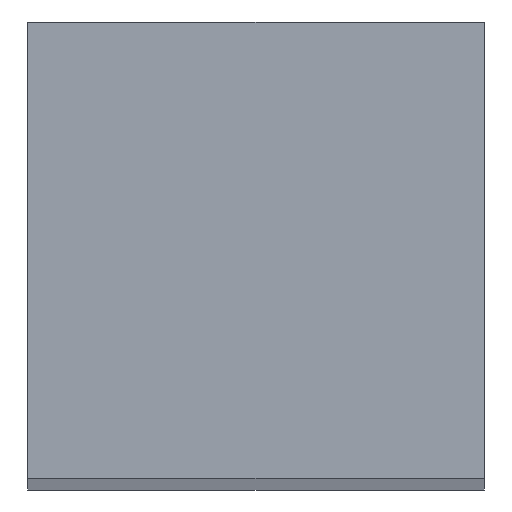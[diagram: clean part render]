
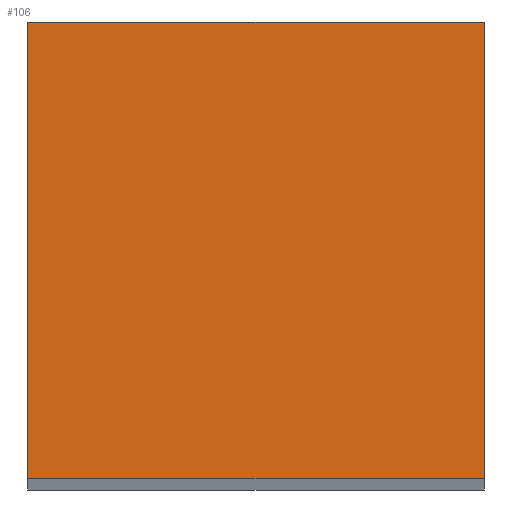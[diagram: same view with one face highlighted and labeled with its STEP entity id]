
A CAD part, top view. The second image highlights one B-rep face of the part: STEP entity #106.
In plain terms, the highlighted planar face has unit normal (0, 0, 1).
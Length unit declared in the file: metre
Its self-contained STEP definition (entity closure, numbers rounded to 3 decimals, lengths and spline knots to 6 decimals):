
#16=ORIENTED_EDGE('',*,*,#40,.T.);
#17=ORIENTED_EDGE('',*,*,#41,.T.);
#18=ORIENTED_EDGE('',*,*,#42,.T.);
#19=ORIENTED_EDGE('',*,*,#43,.T.);
#40=EDGE_CURVE('',#52,#53,#60,.T.);
#41=EDGE_CURVE('',#53,#54,#61,.T.);
#42=EDGE_CURVE('',#54,#55,#62,.T.);
#43=EDGE_CURVE('',#55,#52,#63,.T.);
#52=VERTEX_POINT('',#204);
#53=VERTEX_POINT('',#205);
#54=VERTEX_POINT('',#207);
#55=VERTEX_POINT('',#209);
#60=LINE('',#203,#72);
#61=LINE('',#206,#73);
#62=LINE('',#208,#74);
#63=LINE('',#210,#75);
#72=VECTOR('',#176,1.);
#73=VECTOR('',#177,1.);
#74=VECTOR('',#178,1.);
#75=VECTOR('',#179,1.);
#81=EDGE_LOOP('',(#16,#17,#18,#19));
#87=FACE_BOUND('',#81,.T.);
#93=PLANE('',#161);
#106=ADVANCED_FACE('',(#87),#93,.T.);
#161=AXIS2_PLACEMENT_3D('',#202,#174,#175);
#174=DIRECTION('',(0.,0.,1.));
#175=DIRECTION('',(1.,0.,0.));
#176=DIRECTION('',(0.,1.,0.));
#177=DIRECTION('',(-1.,0.,0.));
#178=DIRECTION('',(0.,-1.,0.));
#179=DIRECTION('',(1.,0.,0.));
#202=CARTESIAN_POINT('',(0.,0.,0.0258));
#203=CARTESIAN_POINT('',(-0.005025,0.0033,0.0258));
#204=CARTESIAN_POINT('',(-0.005025,0.0028,0.0258));
#205=CARTESIAN_POINT('',(-0.005025,0.0033,0.0258));
#206=CARTESIAN_POINT('',(-0.005525,0.0033,0.0258));
#207=CARTESIAN_POINT('',(-0.005525,0.0033,0.0258));
#208=CARTESIAN_POINT('',(-0.005525,0.0033,0.0258));
#209=CARTESIAN_POINT('',(-0.005525,0.0028,0.0258));
#210=CARTESIAN_POINT('',(-0.005525,0.0028,0.0258));
